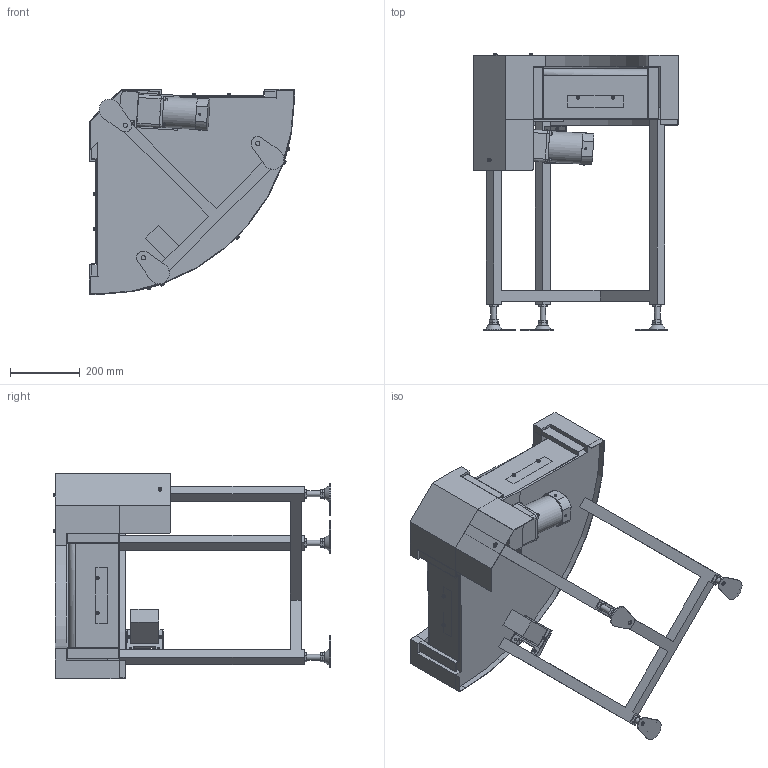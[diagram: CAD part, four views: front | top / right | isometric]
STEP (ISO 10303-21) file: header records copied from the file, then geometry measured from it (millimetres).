
FILE_DESCRIPTION( (''), '2;1');
FILE_NAME ('WEB-MBC2H-UD-309-300-90°-R-K-60-O.stp','2026-06-19T10:39:57',(''),(''),'spGate 21.9.5 (****-****-****-****)','','');
FILE_SCHEMA (('AUTOMOTIVE_DESIGN'));
Length unit declared in the file: millimetre
Products named in the file (47): WEB-MBC2H-UD-309-300-90_-R-K-60-O; TEMP_X_T-prt0; TEMP_X_T-prt1; TEMP_X_T-prt2; TEMP_X_T-prt3; TEMP_X_T-prt4; TEMP_X_T-prt5; TEMP_X_T-prt6; TEMP_X_T-prt7; TEMP_X_T-prt8; TEMP_X_T-prt9; TEMP_X_T-prt10; TEMP_X_T-prt11; TEMP_X_T-prt12; TEMP_X_T-prt13; TEMP_X_T-prt14; TEMP_X_T-prt15; TEMP_X_T-prt16; TEMP_X_T-prt17; TEMP_X_T-prt18; TEMP_X_T-prt19; TEMP_X_T-prt20; TEMP_X_T-prt21; TEMP_X_T-prt22; TEMP_X_T-prt23; TEMP_X_T-prt24; TEMP_X_T-prt25; TEMP_X_T-prt26; TEMP_X_T-prt27; TEMP_X_T-prt28; TEMP_X_T-prt29; TEMP_X_T-prt30; TEMP_X_T-prt31; TEMP_X_T-prt32; TEMP_X_T-prt33; TEMP_X_T-prt34; TEMP_X_T-prt35; TEMP_X_T-prt36; TEMP_X_T-prt37; TEMP_X_T-prt38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
Assembly tree (46 placements, depth 2):
  WEB-MBC2H-UD-309-300-90_-R-K-60-O
    TEMP_X_T-prt0
    TEMP_X_T-prt1
    TEMP_X_T-prt2
    TEMP_X_T-prt3
    TEMP_X_T-prt4
    TEMP_X_T-prt5
    TEMP_X_T-prt6
    TEMP_X_T-prt7
    TEMP_X_T-prt8
    TEMP_X_T-prt9
    TEMP_X_T-prt10
    TEMP_X_T-prt11
    TEMP_X_T-prt12
    TEMP_X_T-prt13
    TEMP_X_T-prt14
    TEMP_X_T-prt15
    TEMP_X_T-prt16
    TEMP_X_T-prt17
    TEMP_X_T-prt18
    TEMP_X_T-prt19
    TEMP_X_T-prt20
    TEMP_X_T-prt21
    TEMP_X_T-prt22
    TEMP_X_T-prt23
    TEMP_X_T-prt24
    TEMP_X_T-prt25
    TEMP_X_T-prt26
    TEMP_X_T-prt27
    TEMP_X_T-prt28
    TEMP_X_T-prt29
    TEMP_X_T-prt30
    TEMP_X_T-prt31
    TEMP_X_T-prt32
    TEMP_X_T-prt33
    TEMP_X_T-prt34
    TEMP_X_T-prt35
    TEMP_X_T-prt36
    TEMP_X_T-prt37
    TEMP_X_T-prt38
    TEMP_X_T-prt39
    TEMP_X_T-prt40
    TEMP_X_T-prt41
    TEMP_X_T-prt42
    TEMP_X_T-prt43
    TEMP_X_T-prt44
    TEMP_X_T-prt45
Bounding box: 588.1 x 794.6 x 588.1 mm (x, y, z)
Volume: 31204097 mm3; surface area: 2403526.5 mm2
Topology: 44 solids, 44 shells, 1003 faces, 2434 edges, 1612 vertices
Faces by surface type: plane 615, bspline 207, cylinder 181
Full cylindrical faces by diameter (mm): 3.3 x2, 3.8 x4, 4 x4, 4.2 x2, 4.3 x4, 4.5 x2, 5 x8, 5.3 x2, 5.6 x4, 6 x8, 6.4 x2, 6.5 x8, 7 x6, 8 x4, 9 x16, 9.2 x12, 10 x20, 11.32 x1, 12.5 x2, 13 x3, 15 x1, 16 x9, 34 x1, 83 x2, 84 x1, 89 x1
Entity records: 55586 total; most frequent: CARTESIAN_POINT 11750, ORIENTED_EDGE 4868, DIRECTION 4557, COLOUR_RGB 3483, PRESENTATION_STYLE_ASSIGNMENT 3483, STYLED_ITEM 3483, EDGE_CURVE 2434, DRAUGHTING_PRE_DEFINED_CURVE_FONT 2434
